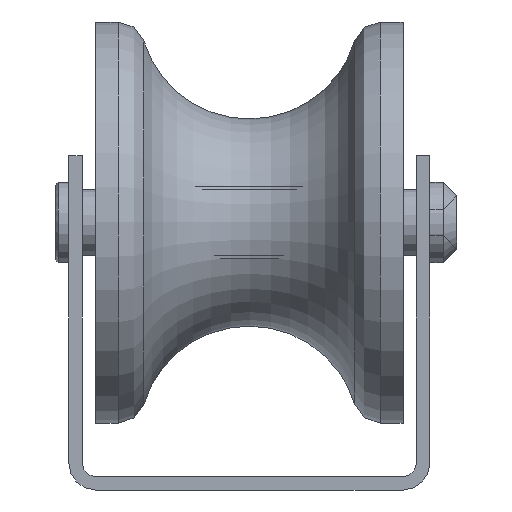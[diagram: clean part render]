
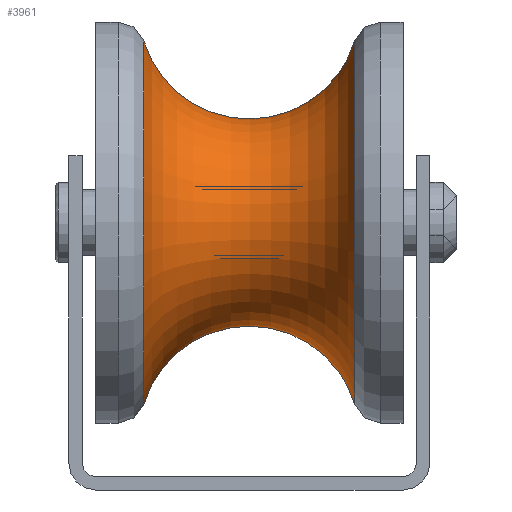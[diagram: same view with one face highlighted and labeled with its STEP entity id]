
A CAD part, front view. The second image highlights one B-rep face of the part: STEP entity #3961.
In plain terms, the highlighted toroidal (fillet/blend) face has major radius 16 mm and minor radius 8.25 mm.
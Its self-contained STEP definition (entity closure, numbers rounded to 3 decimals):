
#20=TOROIDAL_SURFACE('',#4504,16.,8.25);
#994=CIRCLE('',#4505,13.585);
#995=CIRCLE('',#4506,13.585);
#1696=ORIENTED_EDGE('',*,*,#2059,.T.);
#1697=ORIENTED_EDGE('',*,*,#2060,.T.);
#2059=EDGE_CURVE('',#2402,#2402,#994,.T.);
#2060=EDGE_CURVE('',#2403,#2403,#995,.T.);
#2402=VERTEX_POINT('',#6793);
#2403=VERTEX_POINT('',#6795);
#3102=EDGE_LOOP('',(#1696));
#3103=EDGE_LOOP('',(#1697));
#3754=FACE_BOUND('',#3102,.T.);
#3755=FACE_BOUND('',#3103,.T.);
#3961=ADVANCED_FACE('',(#3754,#3755),#20,.F.);
#4504=AXIS2_PLACEMENT_3D('',#6791,#5661,#5662);
#4505=AXIS2_PLACEMENT_3D('',#6792,#5663,#5664);
#4506=AXIS2_PLACEMENT_3D('',#6794,#5665,#5666);
#5661=DIRECTION('',(0.,-1.,0.));
#5662=DIRECTION('',(0.,0.,-1.));
#5663=DIRECTION('',(0.,1.,0.));
#5664=DIRECTION('',(0.,0.,1.));
#5665=DIRECTION('',(0.,-1.,0.));
#5666=DIRECTION('',(0.,0.,-1.));
#6791=CARTESIAN_POINT('',(0.,0.,0.));
#6792=CARTESIAN_POINT('',(0.,-7.889,0.));
#6793=CARTESIAN_POINT('',(0.,-7.889,13.585));
#6794=CARTESIAN_POINT('',(0.,7.889,0.));
#6795=CARTESIAN_POINT('',(0.,7.889,-13.585));
